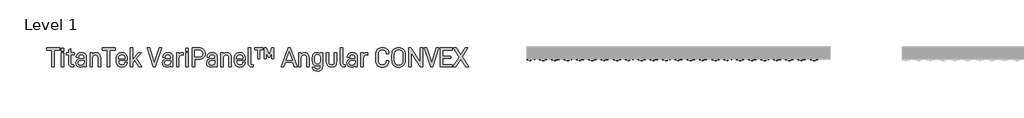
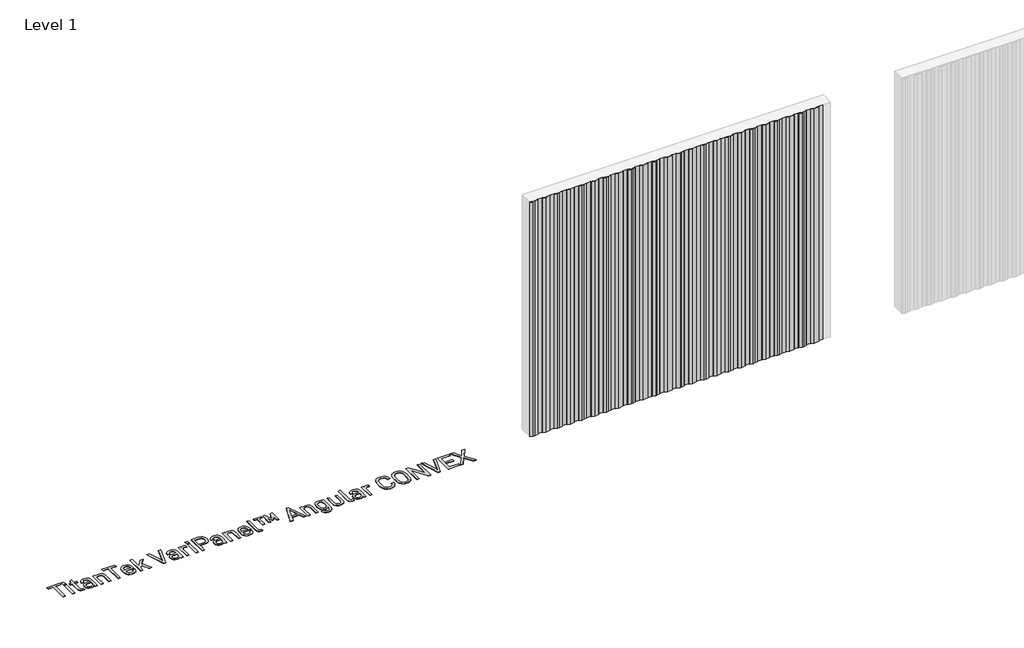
# One storey, part 13 of 33: 2 proxies.
"""IFC4 building model written with IfcOpenShell, lengths in millimetres."""

from ifc_helpers import new_model, si_unit, origin, origin_with_axes, place, context, project, spatial, polyline, outline, extrude, transform, mapped, element, save
from components import aluminum_slate_gray_40f3fb9b

model = new_model("IFC4")

# Units and contexts
model_context = context("Model", 3, world=origin())
ifc_project = project(units=[si_unit("LENGTHUNIT", "METRE", prefix="MILLI")], contexts=[model_context])

# Site, building, storey
site = spatial("IfcSite", under=ifc_project)
building = spatial("IfcBuilding", under=site)
storey = spatial("IfcBuildingStorey", under=building, Name="Level 1", Elevation=0.0)

# Proxies
placement = place(None, origin())
element("IfcBuildingElementProxy", 1, Name="600mm Arial 2", ObjectType="600mm Arial 2", at=placement, inside=storey, context=model_context, shape_type="SweptSolid", body=[
    extrude(outline(polyline([(-9914.9924556, 17220.4128343), (-9914.9924556, 16952.9873502), (-9954.4439015, 16952.9873502), (-9954.4439015, 17220.4128343), (-10038.8787304, 17220.4128343), (-10038.8787304, 17257.3166776), (-9830.5576267, 17257.3166776), (-9830.5576267, 17220.4128343), (-9914.9924556, 17220.4128343)])), origin_with_axes(), (0.0, 0.0, 1.0), 5.0),
    extrude(outline(polyline([(-9763.1553408, 17253.0221475), (-9763.1553408, 17205.8551051), (-9802.6067867, 17205.8551051), (-9802.6067867, 17253.0221475), (-9763.1553408, 17253.0221475)])), origin_with_axes(), (0.0, 0.0, 1.0), 5.0),
    extrude(outline(polyline([(-9764.0288046, 17178.8505176), (-9764.0288046, 16952.9873502), (-9801.733323, 16952.9873502), (-9801.733323, 17178.8505176), (-9764.0288046, 17178.8505176)])), origin_with_axes(), (0.0, 0.0, 1.0), 5.0),
    extrude(outline(polyline([(-9648.294858, 17012.601251), (-9646.8208879, 17001.5191797), (-9642.3989777, 16993.6034145), (-9635.0291273, 16988.8539554), (-9624.7113368, 16987.2708023), (-9603.2386864, 16987.2708023), (-9603.2386864, 16952.9873502), (-9629.3698101, 16952.9873502), (-9653.1535001, 16956.9543314), (-9671.3688587, 16968.855275), (-9682.6692959, 16987.3981825), (-9686.4361083, 17011.2910554), (-9686.4361083, 17147.1146681), (-9720.2828285, 17147.1146681), (-9720.2828285, 17178.8505176), (-9686.4361083, 17178.8505176), (-9686.4361083, 17226.8910237), (-9648.294858, 17244.8698192), (-9648.294858, 17178.8505176), (-9599.3808881, 17178.8505176), (-9599.3808881, 17147.1146681), (-9648.294858, 17147.1146681), (-9648.294858, 17012.601251)])), origin_with_axes(), (0.0, 0.0, 1.0), 5.0),
    extrude(outline(polyline([(-9422.8684225, 17162.1091291), (-9413.2830677, 17151.3409589), (-9406.4363858, 17138.2526505), (-9400.9590402, 17105.1156196), (-9400.9590402, 16952.9873502), (-9438.2996154, 16952.9873502), (-9438.2996154, 16969.2920069), (-9456.7151427, 16956.8451485), (-9473.7476858, 16952.0410978), (-9493.9829293, 16950.4397476), (-9526.0281305, 16954.7160806), (-9550.1029751, 16967.5450794), (-9565.2248162, 16989.3270816), (-9570.2654299, 17018.5699199), (-9565.1338304, 17046.2114081), (-9549.7390318, 17067.4111012), (-9525.063681, 17080.6222403), (-9493.1094655, 17085.0259534), (-9438.7363472, 17085.0259534), (-9438.7363472, 17105.5523515), (-9441.6296959, 17124.441005), (-9450.3097419, 17138.1616647), (-9464.2305704, 17146.1866129), (-9483.7197302, 17148.8615956), (-9502.2262434, 17146.6051476), (-9515.819523, 17139.8358036), (-9524.1720201, 17129.4816187), (-9526.9561857, 17115.4516073), (-9526.9561857, 17109.8468816), (-9563.8600291, 17109.8468816), (-9563.8600291, 17116.2522824), (-9558.4008807, 17143.2932642), (-9542.0234354, 17164.2927885), (-9516.8203668, 17177.4493362), (-9484.1564621, 17181.8348521), (-9448.6719974, 17176.9034213), (-9434.5600987, 17170.7391329), (-9422.8684225, 17162.1091291)]), holes=[polyline([(-9450.6736851, 16994.5496669), (-9441.7206817, 17009.4531421), (-9438.7363472, 17031.0167784), (-9438.7363472, 17054.9642428), (-9488.8149354, 17054.9642428), (-9507.9538, 17052.7168933), (-9521.6244175, 17045.974845), (-9529.826788, 17034.7380979), (-9532.5609115, 17019.0066518), (-9529.8540837, 17003.0522906), (-9521.7336004, 16991.6563182), (-9508.1994616, 16984.8187348), (-9489.2516673, 16982.5395404), (-9466.104878, 16985.542072), (-9450.6736851, 16994.5496669)])]), origin_with_axes(), (0.0, 0.0, 1.0), 5.0),
    extrude(outline(polyline([(-9306.6977441, 17178.8505176), (-9306.6977441, 17160.4349903), (-9288.2822167, 17173.6825238), (-9271.1222935, 17179.4692211), (-9252.2518372, 17181.3981202), (-9219.9154813, 17175.9389718), (-9206.7907787, 17169.1150363), (-9195.6950595, 17159.5615265), (-9187.0650557, 17147.9790333), (-9180.9007673, 17134.1946835), (-9175.9693365, 17100.0204144), (-9175.9693365, 16952.9873502), (-9213.673855, 16952.9873502), (-9213.673855, 17095.7258843), (-9216.6763866, 17118.1083928), (-9225.6839815, 17133.8671346), (-9240.3781893, 17143.4752358), (-9259.567096, 17146.6779363), (-9278.7378056, 17143.4752358), (-9293.3774219, 17133.8671346), (-9303.0401146, 17117.453295), (-9306.2610122, 17095.7258843), (-9306.2610122, 16952.9873502), (-9343.9655306, 16952.9873502), (-9343.9655306, 17178.8505176), (-9306.6977441, 17178.8505176)])), origin_with_axes(), (0.0, 0.0, 1.0), 5.0),
    extrude(outline(polyline([(-9025.2240514, 17220.4128343), (-9025.2240514, 16952.9873502), (-9064.6754974, 16952.9873502), (-9064.6754974, 17220.4128343), (-9149.1103263, 17220.4128343), (-9149.1103263, 17257.3166776), (-8940.7892225, 17257.3166776), (-8940.7892225, 17220.4128343), (-9025.2240514, 17220.4128343)])), origin_with_axes(), (0.0, 0.0, 1.0), 5.0),
    extrude(outline(polyline([(-8884.5235994, 17047.2486463), (-8881.1025331, 17017.8329349), (-8870.8393341, 16998.8805913), (-8854.3527058, 16988.5900965), (-8832.2613519, 16985.1599316), (-8812.990558, 16987.7257314), (-8798.8513635, 16995.4231306), (-8790.1713175, 17007.1966941), (-8787.2779689, 17022.86445), (-8787.2779689, 17028.3963871), (-8750.3741256, 17028.3963871), (-8750.3741256, 17021.9909863), (-8756.0516399, 16992.8391337), (-8763.1485329, 16980.528754), (-8773.084183, 16969.7287387), (-8799.7976159, 16955.2619954), (-8834.3722226, 16950.4397476), (-8853.3222916, 16951.9387388), (-8870.2843206, 16956.4357123), (-8885.2583098, 16963.9306682), (-8898.2442591, 16974.4236064), (-8908.7371973, 16988.0237099), (-8916.2321532, 17004.8401617), (-8920.7291267, 17024.8729617), (-8922.2281179, 17048.1221101), (-8922.2281179, 17085.8266285), (-8920.7314014, 17108.5321367), (-8916.2412518, 17128.1714231), (-8908.7576691, 17144.7444879), (-8898.2806535, 17158.2513309), (-8885.4971476, 17168.5691214), (-8870.7301511, 17175.9389718), (-8853.979664, 17180.360882), (-8835.2456864, 17181.8348521), (-8816.8438069, 17180.360882), (-8800.2161506, 17175.9389718), (-8785.3627176, 17168.5691214), (-8772.2835079, 17158.2513309), (-8761.9657174, 17144.9082623), (-8754.595867, 17128.389789), (-8750.1739568, 17108.6959111), (-8748.6999867, 17085.8266285), (-8748.6999867, 17055.8377065), (-8884.5235994, 17055.8377065), (-8884.5235994, 17047.2486463)]), holes=[polyline([(-8871.2760659, 17133.4304027), (-8881.2117161, 17115.30603), (-8884.5235994, 17086.7000923), (-8786.4045051, 17086.2633604), (-8786.4045051, 17089.6844267), (-8789.6254027, 17116.9255774), (-8799.2880954, 17134.3038665), (-8814.9012599, 17143.5844188), (-8835.2456864, 17146.6779363), (-8855.60831, 17143.3660529), (-8871.2760659, 17133.4304027)])]), origin_with_axes(), (0.0, 0.0, 1.0), 5.0),
    extrude(outline(polyline([(-8663.391694, 17020.3168474), (-8663.391694, 16952.9873502), (-8701.0962125, 16952.9873502), (-8701.0962125, 17257.3166776), (-8663.391694, 17257.3166776), (-8663.391694, 17070.8321675), (-8575.0990669, 17178.8505176), (-8528.3687564, 17178.8505176), (-8602.5403863, 17091.8680861), (-8517.6688255, 16952.9873502), (-8563.5256722, 16952.9873502), (-8627.7980463, 17062.6798392), (-8663.391694, 17020.3168474)])), origin_with_axes(), (0.0, 0.0, 1.0), 5.0),
    extrude(outline(polyline([(-8240.5624516, 17257.3166776), (-8199.0001349, 17257.3166776), (-8298.4294248, 16952.9873502), (-8330.1652743, 16952.9873502), (-8429.1578324, 17257.3166776), (-8387.5955157, 17257.3166776), (-8313.8606177, 17022.86445), (-8240.5624516, 17257.3166776)])), origin_with_axes(), (0.0, 0.0, 1.0), 5.0),
    extrude(outline(polyline([(-8039.3018464, 17162.1091291), (-8029.7164916, 17151.3409589), (-8022.8698097, 17138.2526505), (-8017.3924641, 17105.1156196), (-8017.3924641, 16952.9873502), (-8054.7330393, 16952.9873502), (-8054.7330393, 16969.2920069), (-8073.1485666, 16956.8451485), (-8090.1811097, 16952.0410978), (-8110.4163532, 16950.4397476), (-8142.4615544, 16954.7160806), (-8166.536399, 16967.5450794), (-8181.6582401, 16989.3270816), (-8186.6988538, 17018.5699199), (-8181.5672543, 17046.2114081), (-8166.1724557, 17067.4111012), (-8141.4971049, 17080.6222403), (-8109.5428894, 17085.0259534), (-8055.1697712, 17085.0259534), (-8055.1697712, 17105.5523515), (-8058.0631198, 17124.441005), (-8066.7431658, 17138.1616647), (-8080.6639943, 17146.1866129), (-8100.1531542, 17148.8615956), (-8118.6596673, 17146.6051476), (-8132.2529469, 17139.8358036), (-8140.605444, 17129.4816187), (-8143.3896097, 17115.4516073), (-8143.3896097, 17109.8468816), (-8180.293453, 17109.8468816), (-8180.293453, 17116.2522824), (-8174.8343046, 17143.2932642), (-8158.4568593, 17164.2927885), (-8133.2537908, 17177.4493362), (-8100.589886, 17181.8348521), (-8065.1054213, 17176.9034213), (-8050.9935226, 17170.7391329), (-8039.3018464, 17162.1091291)]), holes=[polyline([(-8067.107109, 16994.5496669), (-8058.1541056, 17009.4531421), (-8055.1697712, 17031.0167784), (-8055.1697712, 17054.9642428), (-8105.2483594, 17054.9642428), (-8124.3872239, 17052.7168933), (-8138.0578414, 17045.974845), (-8146.2602119, 17034.7380979), (-8148.9943354, 17019.0066518), (-8146.2875076, 17003.0522906), (-8138.1670243, 16991.6563182), (-8124.6328855, 16984.8187348), (-8105.6850912, 16982.5395404), (-8082.5383019, 16985.542072), (-8067.107109, 16994.5496669)])]), origin_with_axes(), (0.0, 0.0, 1.0), 5.0),
    extrude(outline(polyline([(-7870.4321886, 17181.8348521), (-7850.2697337, 17179.7239814), (-7850.2697337, 17140.7092673), (-7876.8375894, 17146.313993), (-7895.1712295, 17142.7746451), (-7909.8472402, 17132.1566015), (-7919.4826371, 17115.7518604), (-7922.6944361, 17094.8524206), (-7922.6944361, 16952.9873502), (-7960.3989546, 16952.9873502), (-7960.3989546, 17178.8505176), (-7923.131168, 17178.8505176), (-7923.131168, 17159.1247947), (-7905.5891044, 17173.3185806), (-7889.4846166, 17179.7057842), (-7870.4321886, 17181.8348521)])), origin_with_axes(), (0.0, 0.0, 1.0), 5.0),
    extrude(outline(polyline([(-7773.9872331, 17253.0221475), (-7773.9872331, 17205.8551051), (-7813.438679, 17205.8551051), (-7813.438679, 17253.0221475), (-7773.9872331, 17253.0221475)])), origin_with_axes(), (0.0, 0.0, 1.0), 5.0),
    extrude(outline(polyline([(-7774.8606969, 17178.8505176), (-7774.8606969, 16952.9873502), (-7812.5652153, 16952.9873502), (-7812.5652153, 17178.8505176), (-7774.8606969, 17178.8505176)])), origin_with_axes(), (0.0, 0.0, 1.0), 5.0),
    extrude(outline(polyline([(-7529.6357497, 17233.2964245), (-7518.2033831, 17219.8396237), (-7510.0374069, 17203.926206), (-7505.1378212, 17185.5561716), (-7503.504626, 17164.7295204), (-7505.1651169, 17145.044741), (-7510.1465899, 17127.5527196), (-7518.4490448, 17112.2534562), (-7530.0724816, 17099.1469507), (-7544.1297888, 17088.6380899), (-7560.6073184, 17081.1317609), (-7579.5050706, 17076.6279634), (-7600.8230452, 17075.1266976), (-7671.5008201, 17075.1266976), (-7671.5008201, 16952.9873502), (-7711.3889979, 16952.9873502), (-7711.3889979, 17257.3166776), (-7600.8230452, 17257.3166776), (-7579.6415493, 17255.8154118), (-7560.7165014, 17251.3116143), (-7544.0479016, 17243.8052853), (-7529.6357497, 17233.2964245)]), holes=[polyline([(-7558.3872648, 17125.2780744), (-7547.141419, 17141.5827311), (-7543.3928038, 17164.7295204), (-7547.250602, 17189.3502798), (-7558.8239966, 17206.7285689), (-7577.8946218, 17216.9917679), (-7603.3706478, 17220.4128343), (-7671.5008201, 17220.4128343), (-7671.5008201, 17112.0305409), (-7603.3706478, 17112.0305409), (-7577.130341, 17115.3424243), (-7558.3872648, 17125.2780744)])]), origin_with_axes(), (0.0, 0.0, 1.0), 5.0),
    extrude(outline(polyline([(-7331.2139018, 17162.1091291), (-7321.628547, 17151.3409589), (-7314.781865, 17138.2526505), (-7309.3045194, 17105.1156196), (-7309.3045194, 16952.9873502), (-7346.6450946, 16952.9873502), (-7346.6450946, 16969.2920069), (-7365.060622, 16956.8451485), (-7382.093165, 16952.0410978), (-7402.3284085, 16950.4397476), (-7434.3736098, 16954.7160806), (-7458.4484543, 16967.5450794), (-7473.5702954, 16989.3270816), (-7478.6109091, 17018.5699199), (-7473.4793096, 17046.2114081), (-7458.0845111, 17067.4111012), (-7433.4091602, 17080.6222403), (-7401.4549448, 17085.0259534), (-7347.0818265, 17085.0259534), (-7347.0818265, 17105.5523515), (-7349.9751752, 17124.441005), (-7358.6552212, 17138.1616647), (-7372.5760496, 17146.1866129), (-7392.0652095, 17148.8615956), (-7410.5717226, 17146.6051476), (-7424.1650022, 17139.8358036), (-7432.5174993, 17129.4816187), (-7435.301665, 17115.4516073), (-7435.301665, 17109.8468816), (-7472.2055083, 17109.8468816), (-7472.2055083, 17116.2522824), (-7466.7463599, 17143.2932642), (-7450.3689146, 17164.2927885), (-7425.1658461, 17177.4493362), (-7392.5019414, 17181.8348521), (-7357.0174766, 17176.9034213), (-7342.905578, 17170.7391329), (-7331.2139018, 17162.1091291)]), holes=[polyline([(-7359.0191644, 16994.5496669), (-7350.066161, 17009.4531421), (-7347.0818265, 17031.0167784), (-7347.0818265, 17054.9642428), (-7397.1604147, 17054.9642428), (-7416.2992792, 17052.7168933), (-7429.9698967, 17045.974845), (-7438.1722672, 17034.7380979), (-7440.9063907, 17019.0066518), (-7438.199563, 17003.0522906), (-7430.0790797, 16991.6563182), (-7416.5449409, 16984.8187348), (-7397.5971466, 16982.5395404), (-7374.4503573, 16985.542072), (-7359.0191644, 16994.5496669)])]), origin_with_axes(), (0.0, 0.0, 1.0), 5.0),
    extrude(outline(polyline([(-7215.0432233, 17178.8505176), (-7215.0432233, 17160.4349903), (-7196.627696, 17173.6825238), (-7179.4677728, 17179.4692211), (-7160.5973164, 17181.3981202), (-7128.2609606, 17175.9389718), (-7115.1362579, 17169.1150363), (-7104.0405387, 17159.5615265), (-7095.410535, 17147.9790333), (-7089.2462465, 17134.1946835), (-7084.3148158, 17100.0204144), (-7084.3148158, 16952.9873502), (-7122.0193342, 16952.9873502), (-7122.0193342, 17095.7258843), (-7125.0218659, 17118.1083928), (-7134.0294607, 17133.8671346), (-7148.7236686, 17143.4752358), (-7167.9125753, 17146.6779363), (-7187.0832848, 17143.4752358), (-7201.7229012, 17133.8671346), (-7211.3855939, 17117.453295), (-7214.6064915, 17095.7258843), (-7214.6064915, 16952.9873502), (-7252.3110099, 16952.9873502), (-7252.3110099, 17178.8505176), (-7215.0432233, 17178.8505176)])), origin_with_axes(), (0.0, 0.0, 1.0), 5.0),
    extrude(outline(polyline([(-6997.8419048, 17047.2486463), (-6994.4208384, 17017.8329349), (-6984.1576394, 16998.8805913), (-6967.6710112, 16988.5900965), (-6945.5796572, 16985.1599316), (-6926.3088633, 16987.7257314), (-6912.1696689, 16995.4231306), (-6903.4896229, 17007.1966941), (-6900.5962742, 17022.86445), (-6900.5962742, 17028.3963871), (-6863.6924309, 17028.3963871), (-6863.6924309, 17021.9909863), (-6869.3699452, 16992.8391337), (-6876.4668382, 16980.528754), (-6886.4024883, 16969.7287387), (-6913.1159213, 16955.2619954), (-6947.6905279, 16950.4397476), (-6966.6405969, 16951.9387388), (-6983.602626, 16956.4357123), (-6998.5766152, 16963.9306682), (-7011.5625645, 16974.4236064), (-7022.0555027, 16988.0237099), (-7029.5504585, 17004.8401617), (-7034.047432, 17024.8729617), (-7035.5464232, 17048.1221101), (-7035.5464232, 17085.8266285), (-7034.0497067, 17108.5321367), (-7029.5595571, 17128.1714231), (-7022.0759745, 17144.7444879), (-7011.5989588, 17158.2513309), (-6998.8154529, 17168.5691214), (-6984.0484564, 17175.9389718), (-6967.2979694, 17180.360882), (-6948.5639917, 17181.8348521), (-6930.1621122, 17180.360882), (-6913.534456, 17175.9389718), (-6898.681023, 17168.5691214), (-6885.6018132, 17158.2513309), (-6875.2840227, 17144.9082623), (-6867.9141723, 17128.389789), (-6863.4922621, 17108.6959111), (-6862.018292, 17085.8266285), (-6862.018292, 17055.8377065), (-6997.8419048, 17055.8377065), (-6997.8419048, 17047.2486463)]), holes=[polyline([(-6984.5943713, 17133.4304027), (-6994.5300214, 17115.30603), (-6997.8419048, 17086.7000923), (-6899.7228105, 17086.2633604), (-6899.7228105, 17089.6844267), (-6902.943708, 17116.9255774), (-6912.6064007, 17134.3038665), (-6928.2195652, 17143.5844188), (-6948.5639917, 17146.6779363), (-6968.9266153, 17143.3660529), (-6984.5943713, 17133.4304027)])]), origin_with_axes(), (0.0, 0.0, 1.0), 5.0),
    extrude(outline(polyline([(-6799.4200568, 16968.855275), (-6810.6659025, 16988.362632), (-6814.4145178, 17014.2753899), (-6814.4145178, 17257.3166776), (-6776.7099994, 17257.3166776), (-6776.7099994, 17016.0223174), (-6775.3270151, 17002.6110094), (-6771.1780623, 16994.112935), (-6764.1903523, 16989.6364333), (-6753.5632101, 16988.1442661), (-6731.7266164, 16988.1442661), (-6731.7266164, 16952.9873502), (-6756.5475445, 16952.9873502), (-6781.4230642, 16956.9543314), (-6799.4200568, 16968.855275)])), origin_with_axes(), (0.0, 0.0, 1.0), 5.0),
    extrude(outline(polyline([(-6712.9471458, 17226.01756), (-6712.9471458, 17257.3166776), (-6580.9813313, 17257.3166776), (-6580.9813313, 17226.01756), (-6629.8225125, 17226.01756), (-6629.8225125, 17079.8579596), (-6663.6692327, 17079.8579596), (-6663.6692327, 17226.01756), (-6712.9471458, 17226.01756)])), origin_with_axes(), (0.0, 0.0, 1.0), 5.0),
    extrude(outline(polyline([(-6435.2584627, 17257.3166776), (-6404.8328089, 17257.3166776), (-6404.8328089, 17079.8579596), (-6437.3693334, 17079.8579596), (-6437.3693334, 17178.4137857), (-6470.4153786, 17104.6788877), (-6493.9988997, 17104.6788877), (-6527.4088881, 17178.4137857), (-6527.4088881, 17079.8579596), (-6559.9454127, 17079.8579596), (-6559.9454127, 17257.3166776), (-6529.5197588, 17257.3166776), (-6481.9887732, 17149.7350594), (-6435.2584627, 17257.3166776)])), origin_with_axes(), (0.0, 0.0, 1.0), 5.0),
    extrude(outline(polyline([(-6219.4401284, 17024.1746457), (-6244.2610566, 16952.9873502), (-6286.2601051, 16952.9873502), (-6175.6941524, 17257.3166776), (-6143.5943597, 17257.3166776), (-6032.9556183, 16952.9873502), (-6074.9546669, 16952.9873502), (-6099.8483837, 17024.1746457), (-6219.4401284, 17024.1746457)]), holes=[polyline([(-6159.8262277, 17196.4653699), (-6207.4300019, 17059.2587729), (-6111.8585102, 17059.2587729), (-6159.8262277, 17196.4653699)])]), origin_with_axes(), (0.0, 0.0, 1.0), 5.0),
    extrude(outline(polyline([(-5971.2308468, 17178.8505176), (-5971.2308468, 17160.4349903), (-5952.8153195, 17173.6825238), (-5935.6553963, 17179.4692211), (-5916.7849399, 17181.3981202), (-5884.4485841, 17175.9389718), (-5871.3238814, 17169.1150363), (-5860.2281623, 17159.5615265), (-5851.5981585, 17147.9790333), (-5845.43387, 17134.1946835), (-5840.5024393, 17100.0204144), (-5840.5024393, 16952.9873502), (-5878.2069577, 16952.9873502), (-5878.2069577, 17095.7258843), (-5881.2094894, 17118.1083928), (-5890.2170843, 17133.8671346), (-5904.9112921, 17143.4752358), (-5924.1001988, 17146.6779363), (-5943.2709083, 17143.4752358), (-5957.9105247, 17133.8671346), (-5967.5732174, 17117.453295), (-5970.794115, 17095.7258843), (-5970.794115, 16952.9873502), (-6008.4986334, 16952.9873502), (-6008.4986334, 17178.8505176), (-5971.2308468, 17178.8505176)])), origin_with_axes(), (0.0, 0.0, 1.0), 5.0),
    extrude(outline(polyline([(-5659.7682322, 17180.5974451), (-5621.6269819, 17180.5974451), (-5621.6269819, 16974.4600007), (-5627.1953133, 16937.3559886), (-5634.1557275, 16922.2023024), (-5643.9003075, 16909.3141629), (-5656.3289687, 16898.8053021), (-5670.904895, 16891.2989731), (-5687.6280863, 16886.7951756), (-5706.4985427, 16885.2939098), (-5738.434561, 16889.370074), (-5763.9287841, 16901.5985664), (-5781.5982278, 16922.9074424), (-5788.3129804, 16950.8764795), (-5750.608462, 16950.8764795), (-5747.0782126, 16937.6653403), (-5737.3609284, 16927.2929583), (-5724.0770006, 16921.1787121), (-5706.4985427, 16919.14063), (-5686.0540319, 16922.4343162), (-5671.4508098, 16932.3153749), (-5662.6888766, 16948.783806), (-5659.7682322, 16971.8396095), (-5659.7682322, 16988.580998), (-5676.9463526, 16974.8239439), (-5694.1608673, 16968.4367403), (-5714.2141391, 16966.3076724), (-5745.0583277, 16972.0943697), (-5758.2285233, 16979.3277414), (-5769.897453, 16989.4544617), (-5779.4509628, 17002.3880942), (-5786.2748983, 17018.4789341), (-5791.7340467, 17060.1322366), (-5791.7340467, 17090.1211586), (-5786.2748983, 17131.7198696), (-5779.4509628, 17147.6878787), (-5769.897453, 17160.4349903), (-5758.2012275, 17170.3706404), (-5744.9491448, 17177.4675334), (-5713.7774073, 17183.1450477), (-5697.7093137, 17181.6710776), (-5683.3517534, 17177.2491674), (-5670.7047262, 17169.879317), (-5659.7682322, 17159.5615265), (-5659.7682322, 17180.5974451)]), holes=[polyline([(-5672.6518225, 17017.6964562), (-5662.9891298, 17037.2220104), (-5659.7682322, 17062.315896), (-5659.7682322, 17085.8266285), (-5662.8799468, 17111.7757807), (-5672.2150906, 17132.1202071), (-5687.3915232, 17144.3486996), (-5708.1726816, 17148.4248637), (-5728.0439818, 17144.6489528), (-5742.2377677, 17133.3212198), (-5750.7540392, 17114.4416648), (-5753.5927964, 17088.0102879), (-5753.5927964, 17061.8791641), (-5750.8632222, 17035.4159421), (-5742.6744996, 17016.5136407), (-5729.0266285, 17005.1722599), (-5709.919609, 17001.3917996), (-5688.155804, 17005.4679637), (-5672.6518225, 17017.6964562)])]), origin_with_axes(), (0.0, 0.0, 1.0), 5.0),
    extrude(outline(polyline([(-5544.9805381, 16973.1498051), (-5554.1519074, 16985.4920298), (-5560.7028855, 17000.2453784), (-5565.943668, 17036.9854473), (-5565.943668, 17178.8505176), (-5528.2391496, 17178.8505176), (-5528.2391496, 17040.8432455), (-5525.5641668, 17015.6765713), (-5517.5392187, 16998.4074651), (-5503.5183058, 16988.471815), (-5481.9819653, 16985.1599316), (-5460.4456247, 16988.362632), (-5446.4247119, 16997.9707332), (-5438.3451722, 17015.3490224), (-5435.6519923, 17040.8432455), (-5435.6519923, 17178.8505176), (-5397.9474739, 17178.8505176), (-5397.9474739, 17036.9854473), (-5403.2064535, 17000.2453784), (-5409.7801781, 16985.4920298), (-5418.9833925, 16973.1498051), (-5430.9707725, 16963.2141549), (-5445.533051, 16956.117262), (-5462.6702277, 16951.8591262), (-5482.3823028, 16950.4397476), (-5501.7167868, 16951.8591262), (-5518.594654, 16956.117262), (-5533.0159044, 16963.2141549), (-5544.9805381, 16973.1498051)])), origin_with_axes(), (0.0, 0.0, 1.0), 5.0),
    extrude(outline(polyline([(-5327.3424876, 16968.855275), (-5338.5883334, 16988.362632), (-5342.3369486, 17014.2753899), (-5342.3369486, 17257.3166776), (-5304.6324302, 17257.3166776), (-5304.6324302, 17016.0223174), (-5303.2494459, 17002.6110094), (-5299.1004931, 16994.112935), (-5292.1127831, 16989.6364333), (-5281.4856409, 16988.1442661), (-5259.6490472, 16988.1442661), (-5259.6490472, 16952.9873502), (-5284.4699754, 16952.9873502), (-5309.345495, 16956.9543314), (-5327.3424876, 16968.855275)])), origin_with_axes(), (0.0, 0.0, 1.0), 5.0),
    extrude(outline(polyline([(-5090.4882348, 17162.1091291), (-5080.90288, 17151.3409589), (-5074.056198, 17138.2526505), (-5068.5788524, 17105.1156196), (-5068.5788524, 16952.9873502), (-5105.9194276, 16952.9873502), (-5105.9194276, 16969.2920069), (-5124.334955, 16956.8451485), (-5141.367498, 16952.0410978), (-5161.6027415, 16950.4397476), (-5193.6479428, 16954.7160806), (-5217.7227873, 16967.5450794), (-5232.8446284, 16989.3270816), (-5237.8852422, 17018.5699199), (-5232.7536426, 17046.2114081), (-5217.3588441, 17067.4111012), (-5192.6834932, 17080.6222403), (-5160.7292778, 17085.0259534), (-5106.3561595, 17085.0259534), (-5106.3561595, 17105.5523515), (-5109.2495082, 17124.441005), (-5117.9295542, 17138.1616647), (-5131.8503826, 17146.1866129), (-5151.3395425, 17148.8615956), (-5169.8460557, 17146.6051476), (-5183.4393352, 17139.8358036), (-5191.7918323, 17129.4816187), (-5194.575998, 17115.4516073), (-5194.575998, 17109.8468816), (-5231.4798413, 17109.8468816), (-5231.4798413, 17116.2522824), (-5226.0206929, 17143.2932642), (-5209.6432476, 17164.2927885), (-5184.4401791, 17177.4493362), (-5151.7762744, 17181.8348521), (-5116.2918096, 17176.9034213), (-5102.179911, 17170.7391329), (-5090.4882348, 17162.1091291)]), holes=[polyline([(-5118.2934974, 16994.5496669), (-5109.340494, 17009.4531421), (-5106.3561595, 17031.0167784), (-5106.3561595, 17054.9642428), (-5156.4347477, 17054.9642428), (-5175.5736122, 17052.7168933), (-5189.2442297, 17045.974845), (-5197.4466002, 17034.7380979), (-5200.1807237, 17019.0066518), (-5197.473896, 17003.0522906), (-5189.3534127, 16991.6563182), (-5175.8192739, 16984.8187348), (-5156.8714796, 16982.5395404), (-5133.7246903, 16985.542072), (-5118.2934974, 16994.5496669)])]), origin_with_axes(), (0.0, 0.0, 1.0), 5.0),
    extrude(outline(polyline([(-4921.6185769, 17181.8348521), (-4901.4561221, 17179.7239814), (-4901.4561221, 17140.7092673), (-4928.0239777, 17146.313993), (-4946.3576178, 17142.7746451), (-4961.0336285, 17132.1566015), (-4970.6690255, 17115.7518604), (-4973.8808245, 17094.8524206), (-4973.8808245, 16952.9873502), (-5011.5853429, 16952.9873502), (-5011.5853429, 17178.8505176), (-4974.3175563, 17178.8505176), (-4974.3175563, 17159.1247947), (-4956.7754927, 17173.3185806), (-4940.6710049, 17179.7057842), (-4921.6185769, 17181.8348521)])), origin_with_axes(), (0.0, 0.0, 1.0), 5.0),
    extrude(outline(polyline([(-4748.3088117, 16977.881067), (-4761.2378948, 16994.3676953), (-4770.4729543, 17014.7121217), (-4776.0139899, 17038.9143464), (-4777.8610018, 17066.9743693), (-4777.8610018, 17143.6936018), (-4776.0139899, 17171.9219484), (-4770.4729543, 17196.1924124), (-4761.2378948, 17216.5049939), (-4748.3088117, 17232.8596927), (-4732.2998589, 17245.2474103), (-4713.8251908, 17254.09578), (-4692.8848073, 17259.4048019), (-4669.4787084, 17261.1744758), (-4640.1084899, 17258.2811272), (-4614.5960696, 17249.6010812), (-4593.4873624, 17235.4436896), (-4577.3282831, 17216.1183042), (-4567.6655904, 17192.7713461), (-4564.4446928, 17166.4036592), (-4564.4446928, 17160.8717222), (-4604.3328706, 17160.8717222), (-4604.3328706, 17166.4036592), (-4608.6092035, 17190.2965321), (-4621.4382023, 17208.8394396), (-4642.255755, 17220.4128343), (-4669.4787084, 17224.2706325), (-4698.9308142, 17219.5575677), (-4720.4671547, 17205.4183733), (-4728.15773, 17194.4136399), (-4733.6509981, 17180.251699), (-4738.0456126, 17142.4561948), (-4738.0456126, 17065.3002304), (-4733.7328854, 17030.9712854), (-4720.7947036, 17006.4506105), (-4711.0910673, 16997.8683742), (-4699.2310673, 16991.7382055), (-4669.0419766, 16986.8340705), (-4641.7098401, 16990.6918687), (-4621.4382023, 17002.2652633), (-4608.6092035, 17020.4806219), (-4604.3328706, 17044.2643119), (-4604.3328706, 17050.3057694), (-4565.3181566, 17050.3057694), (-4565.3181566, 17044.2643119), (-4567.0832812, 17023.4103649), (-4572.3786552, 17004.9584432), (-4581.2042785, 16988.9085469), (-4593.5601511, 16975.2606758), (-4608.9231046, 16964.0193793), (-4626.697182, 16955.9898819), (-4646.8823833, 16951.1721834), (-4669.4787084, 16949.5662839), (-4692.8848073, 16951.3359578), (-4713.8251908, 16956.6449797), (-4732.2998589, 16965.4933494), (-4748.3088117, 16977.881067)])), origin_with_axes(), (0.0, 0.0, 1.0), 5.0),
    extrude(outline(polyline([(-4488.3077695, 16977.881067), (-4500.8547123, 16994.2039208), (-4509.8168143, 17014.4937558), (-4515.1940755, 17038.7505719), (-4516.9864959, 17066.9743693), (-4516.9864959, 17143.6936018), (-4515.1667797, 17171.7854697), (-4509.7076313, 17196.0104408), (-4500.6090506, 17216.3685152), (-4487.8710376, 17232.8596927), (-4472.2123802, 17245.2474103), (-4453.9879231, 17254.09578), (-4433.1976662, 17259.4048019), (-4409.8416095, 17261.1744758), (-4386.6811723, 17259.4048019), (-4366.041042, 17254.09578), (-4347.9212185, 17245.2474103), (-4332.3217019, 17232.8596927), (-4319.7429141, 17216.5049939), (-4310.7580656, 17196.1924124), (-4305.3671566, 17171.9219484), (-4303.5701869, 17143.6936018), (-4303.5701869, 17066.9743693), (-4305.389903, 17038.9143464), (-4310.8490514, 17014.7121217), (-4319.9476321, 16994.3676953), (-4332.6856451, 16977.881067), (-4348.4807812, 16965.4933494), (-4366.6779426, 16956.6449797), (-4387.2771293, 16951.3359578), (-4410.2783414, 16949.5662839), (-4433.634398, 16951.3359578), (-4454.4246549, 16956.6449797), (-4472.6491121, 16965.4933494), (-4488.3077695, 16977.881067)]), holes=[polyline([(-4343.4583647, 17142.4561948), (-4347.6073175, 17178.2500113), (-4360.0541759, 17203.8170231), (-4369.3893197, 17212.7654772), (-4380.7989399, 17219.1572301), (-4409.8416095, 17224.2706325), (-4439.0116592, 17219.5575677), (-4460.4297182, 17205.4183733), (-4467.7540757, 17194.2498655), (-4472.9857596, 17180.0333331), (-4477.1711067, 17142.4561948), (-4477.1711067, 17065.3002304), (-4472.8765766, 17029.0696821), (-4467.508414, 17015.6083319), (-4459.9929863, 17005.2495978), (-4439.1208422, 16991.4379523), (-4409.8416095, 16986.8340705), (-4380.7989399, 16991.7382055), (-4369.3893197, 16997.8683742), (-4360.0541759, 17006.4506105), (-4347.6073175, 17030.9712854), (-4343.4583647, 17065.3002304), (-4343.4583647, 17142.4561948)])]), origin_with_axes(), (0.0, 0.0, 1.0), 5.0),
    extrude(outline(polyline([(-4065.8424703, 17257.3166776), (-4025.9542925, 17257.3166776), (-4025.9542925, 16952.9873502), (-4063.7315995, 16952.9873502), (-4210.2551432, 17181.3981202), (-4210.2551432, 16952.9873502), (-4250.143321, 16952.9873502), (-4250.143321, 17257.3166776), (-4212.4388026, 17257.3166776), (-4065.8424703, 17029.7065827), (-4065.8424703, 17257.3166776)])), origin_with_axes(), (0.0, 0.0, 1.0), 5.0),
    extrude(outline(polyline([(-3810.3543241, 17257.3166776), (-3768.7920075, 17257.3166776), (-3868.2212974, 16952.9873502), (-3899.9571469, 16952.9873502), (-3998.9497049, 17257.3166776), (-3957.3873883, 17257.3166776), (-3883.6524903, 17022.86445), (-3810.3543241, 17257.3166776)])), origin_with_axes(), (0.0, 0.0, 1.0), 5.0),
    extrude(outline(polyline([(-3702.4815513, 17126.1515382), (-3575.610942, 17126.1515382), (-3575.610942, 17089.3204835), (-3702.4815513, 17089.3204835), (-3702.4815513, 16989.8184049), (-3554.2110801, 16989.8184049), (-3554.2110801, 16952.9873502), (-3742.3697291, 16952.9873502), (-3742.3697291, 17257.3166776), (-3554.2110801, 17257.3166776), (-3554.2110801, 17220.4128343), (-3702.4815513, 17220.4128343), (-3702.4815513, 17126.1515382)])), origin_with_axes(), (0.0, 0.0, 1.0), 5.0),
    extrude(outline(polyline([(-3536.0139187, 17257.3166776), (-3487.9734126, 17257.3166776), (-3418.1691015, 17145.0037974), (-3348.2920017, 17257.3166776), (-3301.5616912, 17257.3166776), (-3394.5855803, 17112.3944842), (-3292.1719559, 16952.9873502), (-3340.1396734, 16952.9873502), (-3418.9697766, 17078.1110321), (-3497.4359366, 16952.9873502), (-3544.166247, 16952.9873502), (-3442.1165659, 17111.1570772), (-3536.0139187, 17257.3166776)])), origin_with_axes(), (0.0, 0.0, 1.0), 5.0),
])
aluminum_slate_gray_shape = aluminum_slate_gray_40f3fb9b(model_context)
element("IfcBuildingElementProxy", 2, Name="TitanTek VariPanel™ Angular CONVEX : Aluminum Slate Gray", ObjectType="TitanTek VariPanel™ Angular CONVEX : Aluminum Slate Gray", at=placement, inside=storey, context=model_context, shape_type="MappedRepresentation", body=[
    mapped(aluminum_slate_gray_shape, transform((-2360.5897817, 17078.6095025, 0.0), x_axis=(1.0, 0.0, 0.0), y_axis=(0.0, 1.0, 0.0), z_axis=(0.0, 0.0, 1.0))),
])

save(model, "model.ifc")
